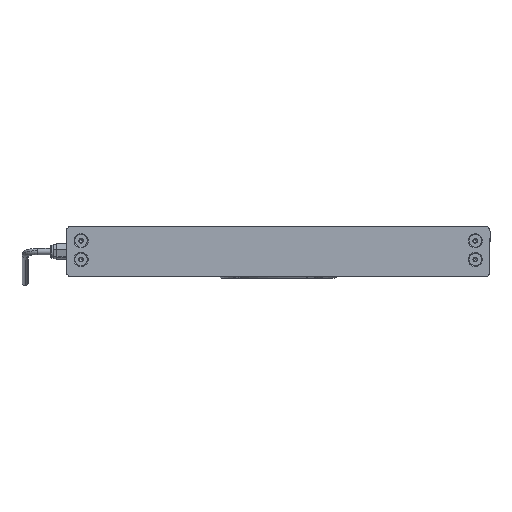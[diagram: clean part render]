
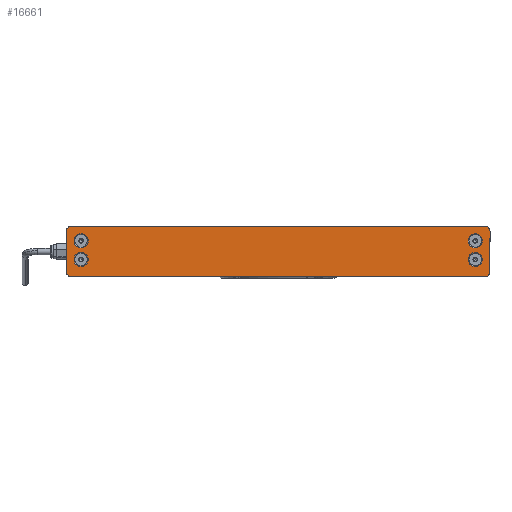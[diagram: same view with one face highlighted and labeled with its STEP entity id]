
A CAD part, left-side view. The second image highlights one B-rep face of the part: STEP entity #16661.
In plain terms, the highlighted planar face has unit normal (-1, 0, 0) as drawn and (0, 0, -1) by its records, which use the part's own axes.
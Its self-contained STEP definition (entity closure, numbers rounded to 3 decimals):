
#63 = VERTEX_POINT ( 'NONE', #917 ) ;
#168 = ORIENTED_EDGE ( 'NONE', *, *, #2388, .F. ) ;
#395 = CARTESIAN_POINT ( 'NONE',  ( 156.3, 8.5, 0. ) ) ;
#441 = DIRECTION ( 'NONE',  ( -1., 0., 0. ) ) ;
#655 = VERTEX_POINT ( 'NONE', #4443 ) ;
#741 = EDGE_LOOP ( 'NONE', ( #9269, #2064, #168, #3574, #16247, #24767, #10369, #14079 ) ) ;
#751 = VERTEX_POINT ( 'NONE', #12820 ) ;
#826 = LINE ( 'NONE', #15112, #7157 ) ;
#917 = CARTESIAN_POINT ( 'NONE',  ( 150.7, -6.3, 0. ) ) ;
#978 = CARTESIAN_POINT ( 'NONE',  ( 161.9, -6.3, 0. ) ) ;
#996 = VERTEX_POINT ( 'NONE', #978 ) ;
#1366 = CARTESIAN_POINT ( 'NONE',  ( 164., 16., 0. ) ) ;
#1569 = VERTEX_POINT ( 'NONE', #23438 ) ;
#1577 = CARTESIAN_POINT ( 'NONE',  ( -164., 16., 0. ) ) ;
#1860 = VERTEX_POINT ( 'NONE', #9765 ) ;
#1887 = CARTESIAN_POINT ( 'NONE',  ( 168., -16., 0. ) ) ;
#2064 = ORIENTED_EDGE ( 'NONE', *, *, #17788, .F. ) ;
#2229 = AXIS2_PLACEMENT_3D ( 'NONE', #395, #21652, #18217 ) ;
#2283 = VERTEX_POINT ( 'NONE', #8642 ) ;
#2388 = EDGE_CURVE ( 'NONE', #9533, #8230, #21518, .T. ) ;
#2803 = CARTESIAN_POINT ( 'NONE',  ( 156.3, 8.5, 0. ) ) ;
#3323 = DIRECTION ( 'NONE',  ( -1., 0., 0. ) ) ;
#3380 = CARTESIAN_POINT ( 'NONE',  ( 164., -16., 0. ) ) ;
#3574 = ORIENTED_EDGE ( 'NONE', *, *, #5376, .F. ) ;
#3711 = CARTESIAN_POINT ( 'NONE',  ( -156.3, -6.3, 0. ) ) ;
#3909 = DIRECTION ( 'NONE',  ( 0., 0., -1. ) ) ;
#4443 = CARTESIAN_POINT ( 'NONE',  ( 150.7, 8.5, 0. ) ) ;
#4724 = AXIS2_PLACEMENT_3D ( 'NONE', #1577, #12966, #23069 ) ;
#4848 = EDGE_LOOP ( 'NONE', ( #25303, #19331 ) ) ;
#5293 = FACE_BOUND ( 'NONE', #4848, .T. ) ;
#5295 = AXIS2_PLACEMENT_3D ( 'NONE', #7583, #3909, #5622 ) ;
#5376 = EDGE_CURVE ( 'NONE', #23626, #9533, #24986, .T. ) ;
#5440 = DIRECTION ( 'NONE',  ( 1., 0., 0. ) ) ;
#5536 = VECTOR ( 'NONE', #5440, 1000. ) ;
#5622 = DIRECTION ( 'NONE',  ( -1., 0., 0. ) ) ;
#5803 = DIRECTION ( 'NONE',  ( 0., 0., -1. ) ) ;
#5811 = CIRCLE ( 'NONE', #22556, 5.6 ) ;
#6157 = CIRCLE ( 'NONE', #25848, 5.6 ) ;
#6200 = DIRECTION ( 'NONE',  ( 0., 0., -1. ) ) ;
#6232 = ORIENTED_EDGE ( 'NONE', *, *, #8060, .F. ) ;
#6311 = AXIS2_PLACEMENT_3D ( 'NONE', #8973, #24579, #6610 ) ;
#6498 = CARTESIAN_POINT ( 'NONE',  ( -168., -16., 0. ) ) ;
#6610 = DIRECTION ( 'NONE',  ( -1., 0., 0. ) ) ;
#6835 = VERTEX_POINT ( 'NONE', #24820 ) ;
#7105 = VERTEX_POINT ( 'NONE', #9284 ) ;
#7141 = LINE ( 'NONE', #13033, #15344 ) ;
#7157 = VECTOR ( 'NONE', #16826, 1000. ) ;
#7203 = ORIENTED_EDGE ( 'NONE', *, *, #25195, .F. ) ;
#7255 = FACE_OUTER_BOUND ( 'NONE', #741, .T. ) ;
#7524 = CARTESIAN_POINT ( 'NONE',  ( 164., 20., 0. ) ) ;
#7583 = CARTESIAN_POINT ( 'NONE',  ( -156.3, 8.5, 0. ) ) ;
#7677 = CIRCLE ( 'NONE', #2229, 5.6 ) ;
#8060 = EDGE_CURVE ( 'NONE', #22709, #7105, #6157, .T. ) ;
#8157 = AXIS2_PLACEMENT_3D ( 'NONE', #2803, #19317, #22858 ) ;
#8230 = VERTEX_POINT ( 'NONE', #1887 ) ;
#8294 = DIRECTION ( 'NONE',  ( 0., 0., -1. ) ) ;
#8486 = EDGE_LOOP ( 'NONE', ( #10842, #24349 ) ) ;
#8503 = CIRCLE ( 'NONE', #25259, 4. ) ;
#8642 = CARTESIAN_POINT ( 'NONE',  ( -164., 20., 0. ) ) ;
#8973 = CARTESIAN_POINT ( 'NONE',  ( -164., -16., 0. ) ) ;
#9269 = ORIENTED_EDGE ( 'NONE', *, *, #25249, .F. ) ;
#9284 = CARTESIAN_POINT ( 'NONE',  ( -150.7, -6.3, 0. ) ) ;
#9354 = DIRECTION ( 'NONE',  ( -1., 0., 0. ) ) ;
#9484 = DIRECTION ( 'NONE',  ( 0., 0., -1. ) ) ;
#9533 = VERTEX_POINT ( 'NONE', #10902 ) ;
#9765 = CARTESIAN_POINT ( 'NONE',  ( -168., 16., 0. ) ) ;
#10128 = CARTESIAN_POINT ( 'NONE',  ( 156.3, -6.3, 0. ) ) ;
#10269 = CARTESIAN_POINT ( 'NONE',  ( -156.3, -6.3, 0. ) ) ;
#10336 = CARTESIAN_POINT ( 'NONE',  ( -164., -20., 0. ) ) ;
#10369 = ORIENTED_EDGE ( 'NONE', *, *, #19612, .F. ) ;
#10842 = ORIENTED_EDGE ( 'NONE', *, *, #24495, .F. ) ;
#10902 = CARTESIAN_POINT ( 'NONE',  ( 164., -20., 0. ) ) ;
#11189 = DIRECTION ( 'NONE',  ( -1., 0., 0. ) ) ;
#11272 = ORIENTED_EDGE ( 'NONE', *, *, #15942, .F. ) ;
#11318 = DIRECTION ( 'NONE',  ( -1., 0., 0. ) ) ;
#11335 = CIRCLE ( 'NONE', #22229, 5.6 ) ;
#11495 = VERTEX_POINT ( 'NONE', #16888 ) ;
#12226 = EDGE_CURVE ( 'NONE', #18539, #2283, #7141, .T. ) ;
#12481 = EDGE_LOOP ( 'NONE', ( #6232, #15002 ) ) ;
#12782 = LINE ( 'NONE', #6498, #15231 ) ;
#12820 = CARTESIAN_POINT ( 'NONE',  ( 168., 16., 0. ) ) ;
#12966 = DIRECTION ( 'NONE',  ( 0., 0., 1. ) ) ;
#13026 = DIRECTION ( 'NONE',  ( 0., -1., 0. ) ) ;
#13033 = CARTESIAN_POINT ( 'NONE',  ( -164., 20., 0. ) ) ;
#13081 = EDGE_CURVE ( 'NONE', #20393, #655, #19477, .T. ) ;
#13180 = CARTESIAN_POINT ( 'NONE',  ( -164., -20., 0. ) ) ;
#13467 = CIRCLE ( 'NONE', #24361, 5.6 ) ;
#13694 = DIRECTION ( 'NONE',  ( 0., 0., 1. ) ) ;
#13807 = FACE_BOUND ( 'NONE', #12481, .T. ) ;
#14079 = ORIENTED_EDGE ( 'NONE', *, *, #12226, .F. ) ;
#14210 = DIRECTION ( 'NONE',  ( -1., 0., 0. ) ) ;
#14302 = AXIS2_PLACEMENT_3D ( 'NONE', #1366, #9484, #9354 ) ;
#14354 = CARTESIAN_POINT ( 'NONE',  ( 161.9, 8.5, 0. ) ) ;
#15002 = ORIENTED_EDGE ( 'NONE', *, *, #15299, .F. ) ;
#15112 = CARTESIAN_POINT ( 'NONE',  ( 168., -16., 0. ) ) ;
#15231 = VECTOR ( 'NONE', #13026, 1000. ) ;
#15235 = CIRCLE ( 'NONE', #4724, 4. ) ;
#15280 = PLANE ( 'NONE',  #14302 ) ;
#15299 = EDGE_CURVE ( 'NONE', #7105, #22709, #5811, .T. ) ;
#15344 = VECTOR ( 'NONE', #11318, 1000. ) ;
#15942 = EDGE_CURVE ( 'NONE', #11495, #6835, #22866, .T. ) ;
#16179 = CARTESIAN_POINT ( 'NONE',  ( 156.3, -6.3, 0. ) ) ;
#16247 = ORIENTED_EDGE ( 'NONE', *, *, #21867, .F. ) ;
#16661 = ADVANCED_FACE ( 'NONE', ( #25211, #5293, #19712, #13807, #7255 ), #15280, .T. ) ;
#16775 = EDGE_CURVE ( 'NONE', #996, #63, #13467, .T. ) ;
#16826 = DIRECTION ( 'NONE',  ( 0., 1., 0. ) ) ;
#16888 = CARTESIAN_POINT ( 'NONE',  ( -150.7, 8.5, 0. ) ) ;
#17130 = DIRECTION ( 'NONE',  ( -1., 0., 0. ) ) ;
#17173 = DIRECTION ( 'NONE',  ( 0., 0., 1. ) ) ;
#17762 = EDGE_LOOP ( 'NONE', ( #7203, #11272 ) ) ;
#17785 = EDGE_CURVE ( 'NONE', #63, #996, #11335, .T. ) ;
#17788 = EDGE_CURVE ( 'NONE', #8230, #751, #826, .T. ) ;
#18136 = DIRECTION ( 'NONE',  ( 0., 0., -1. ) ) ;
#18217 = DIRECTION ( 'NONE',  ( -1., 0., 0. ) ) ;
#18539 = VERTEX_POINT ( 'NONE', #7524 ) ;
#18569 = CIRCLE ( 'NONE', #24840, 5.6 ) ;
#19317 = DIRECTION ( 'NONE',  ( 0., 0., -1. ) ) ;
#19331 = ORIENTED_EDGE ( 'NONE', *, *, #16775, .F. ) ;
#19334 = DIRECTION ( 'NONE',  ( 0., 0., -1. ) ) ;
#19477 = CIRCLE ( 'NONE', #8157, 5.6 ) ;
#19612 = EDGE_CURVE ( 'NONE', #2283, #1860, #15235, .T. ) ;
#19712 = FACE_BOUND ( 'NONE', #17762, .T. ) ;
#19724 = CARTESIAN_POINT ( 'NONE',  ( 164., 16., 0. ) ) ;
#20393 = VERTEX_POINT ( 'NONE', #14354 ) ;
#21291 = CARTESIAN_POINT ( 'NONE',  ( -156.3, 8.5, 0. ) ) ;
#21518 = CIRCLE ( 'NONE', #24868, 4. ) ;
#21652 = DIRECTION ( 'NONE',  ( 0., 0., -1. ) ) ;
#21867 = EDGE_CURVE ( 'NONE', #1569, #23626, #24317, .T. ) ;
#22229 = AXIS2_PLACEMENT_3D ( 'NONE', #10128, #6200, #14210 ) ;
#22310 = DIRECTION ( 'NONE',  ( -1., 0., 0. ) ) ;
#22556 = AXIS2_PLACEMENT_3D ( 'NONE', #10269, #8294, #22310 ) ;
#22709 = VERTEX_POINT ( 'NONE', #24093 ) ;
#22858 = DIRECTION ( 'NONE',  ( -1., 0., 0. ) ) ;
#22866 = CIRCLE ( 'NONE', #5295, 5.6 ) ;
#23069 = DIRECTION ( 'NONE',  ( -1., 0., 0. ) ) ;
#23321 = DIRECTION ( 'NONE',  ( 1., 0., 0. ) ) ;
#23438 = CARTESIAN_POINT ( 'NONE',  ( -168., -16., 0. ) ) ;
#23626 = VERTEX_POINT ( 'NONE', #10336 ) ;
#24093 = CARTESIAN_POINT ( 'NONE',  ( -161.9, -6.3, 0. ) ) ;
#24317 = CIRCLE ( 'NONE', #6311, 4. ) ;
#24349 = ORIENTED_EDGE ( 'NONE', *, *, #13081, .F. ) ;
#24361 = AXIS2_PLACEMENT_3D ( 'NONE', #16179, #18136, #441 ) ;
#24495 = EDGE_CURVE ( 'NONE', #655, #20393, #7677, .T. ) ;
#24579 = DIRECTION ( 'NONE',  ( 0., 0., 1. ) ) ;
#24767 = ORIENTED_EDGE ( 'NONE', *, *, #25052, .F. ) ;
#24820 = CARTESIAN_POINT ( 'NONE',  ( -161.9, 8.5, 0. ) ) ;
#24840 = AXIS2_PLACEMENT_3D ( 'NONE', #21291, #19334, #11189 ) ;
#24868 = AXIS2_PLACEMENT_3D ( 'NONE', #3380, #17173, #23321 ) ;
#24986 = LINE ( 'NONE', #13180, #5536 ) ;
#25052 = EDGE_CURVE ( 'NONE', #1860, #1569, #12782, .T. ) ;
#25195 = EDGE_CURVE ( 'NONE', #6835, #11495, #18569, .T. ) ;
#25211 = FACE_BOUND ( 'NONE', #8486, .T. ) ;
#25249 = EDGE_CURVE ( 'NONE', #751, #18539, #8503, .T. ) ;
#25259 = AXIS2_PLACEMENT_3D ( 'NONE', #19724, #13694, #17130 ) ;
#25303 = ORIENTED_EDGE ( 'NONE', *, *, #17785, .F. ) ;
#25848 = AXIS2_PLACEMENT_3D ( 'NONE', #3711, #5803, #3323 ) ;
